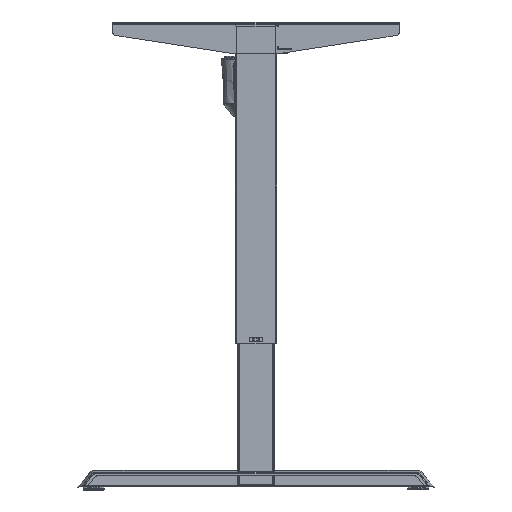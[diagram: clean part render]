
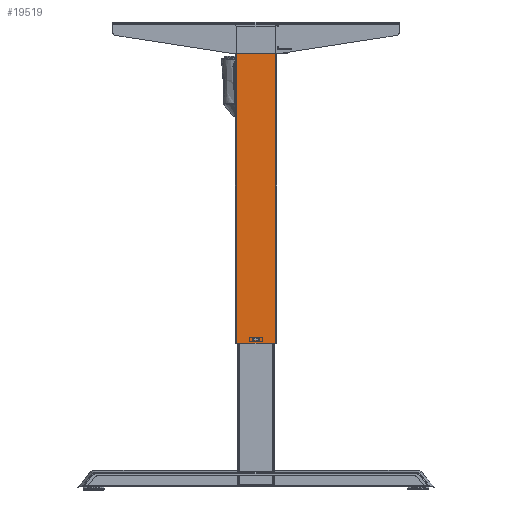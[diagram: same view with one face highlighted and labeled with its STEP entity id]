
A CAD part, left-side view. The second image highlights one B-rep face of the part: STEP entity #19519.
In plain terms, the highlighted planar face has unit normal (-1, 0, 0).
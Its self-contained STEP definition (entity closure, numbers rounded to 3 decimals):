
#596 = DIRECTION ( 'NONE',  ( 1., 0., 0. ) ) ;
#949 = DIRECTION ( 'NONE',  ( 0., -1., 0. ) ) ;
#3120 = VERTEX_POINT ( 'NONE', #36601 ) ;
#3963 = VECTOR ( 'NONE', #41346, 1000. ) ;
#4034 = EDGE_CURVE ( 'NONE', #21458, #59693, #53948, .T. ) ;
#5707 = EDGE_CURVE ( 'NONE', #59693, #58922, #15990, .T. ) ;
#7530 = DIRECTION ( 'NONE',  ( 0., -1., 0. ) ) ;
#7835 = EDGE_CURVE ( 'NONE', #3120, #16597, #9620, .T. ) ;
#9620 = LINE ( 'NONE', #49672, #21069 ) ;
#11277 = AXIS2_PLACEMENT_3D ( 'NONE', #28847, #596, #62065 ) ;
#12360 = FACE_OUTER_BOUND ( 'NONE', #19856, .T. ) ;
#13380 = VECTOR ( 'NONE', #949, 1000. ) ;
#13393 = CARTESIAN_POINT ( 'NONE',  ( -30., -37., 609. ) ) ;
#14014 = EDGE_CURVE ( 'NONE', #35728, #69951, #68147, .T. ) ;
#15302 = ORIENTED_EDGE ( 'NONE', *, *, #14014, .T. ) ;
#15386 = ORIENTED_EDGE ( 'NONE', *, *, #68105, .F. ) ;
#15682 = LINE ( 'NONE', #57654, #59634 ) ;
#15990 = LINE ( 'NONE', #40033, #13380 ) ;
#16597 = VERTEX_POINT ( 'NONE', #71259 ) ;
#18817 = VECTOR ( 'NONE', #24456, 1000. ) ;
#19519 = ADVANCED_FACE ( 'NONE', ( #33411, #12360 ), #39660, .F. ) ;
#19751 = CARTESIAN_POINT ( 'NONE',  ( -30., 6., 10. ) ) ;
#19856 = EDGE_LOOP ( 'NONE', ( #15386, #69094, #51437, #53616 ) ) ;
#20484 = CARTESIAN_POINT ( 'NONE',  ( -30., -37., 614. ) ) ;
#21069 = VECTOR ( 'NONE', #21925, 1000. ) ;
#21458 = VERTEX_POINT ( 'NONE', #60777 ) ;
#21925 = DIRECTION ( 'NONE',  ( 0., 1., 0. ) ) ;
#24456 = DIRECTION ( 'NONE',  ( 0., 0., -1. ) ) ;
#28847 = CARTESIAN_POINT ( 'NONE',  ( -30., 37., 614. ) ) ;
#30336 = CARTESIAN_POINT ( 'NONE',  ( -30., 37., 614. ) ) ;
#31407 = EDGE_CURVE ( 'NONE', #69951, #3120, #49823, .T. ) ;
#33411 = FACE_BOUND ( 'NONE', #50936, .T. ) ;
#33489 = VERTEX_POINT ( 'NONE', #13393 ) ;
#34070 = CARTESIAN_POINT ( 'NONE',  ( -30., -6., 10. ) ) ;
#34864 = VECTOR ( 'NONE', #69914, 1000. ) ;
#35728 = VERTEX_POINT ( 'NONE', #52761 ) ;
#36601 = CARTESIAN_POINT ( 'NONE',  ( -30., -6., 6. ) ) ;
#39660 = PLANE ( 'NONE',  #11277 ) ;
#39994 = VECTOR ( 'NONE', #50319, 1000. ) ;
#40033 = CARTESIAN_POINT ( 'NONE',  ( -30., 37., 0. ) ) ;
#40703 = VECTOR ( 'NONE', #59305, 1000. ) ;
#41346 = DIRECTION ( 'NONE',  ( 0., 0., 1. ) ) ;
#44747 = CARTESIAN_POINT ( 'NONE',  ( -30., 37., 0. ) ) ;
#47293 = CARTESIAN_POINT ( 'NONE',  ( -30., -6., 10. ) ) ;
#49672 = CARTESIAN_POINT ( 'NONE',  ( -30., 6., 6. ) ) ;
#49823 = LINE ( 'NONE', #47293, #34864 ) ;
#50319 = DIRECTION ( 'NONE',  ( 0., -1., 0. ) ) ;
#50936 = EDGE_LOOP ( 'NONE', ( #61458, #15302, #54946, #53562 ) ) ;
#51437 = ORIENTED_EDGE ( 'NONE', *, *, #4034, .T. ) ;
#52761 = CARTESIAN_POINT ( 'NONE',  ( -30., 6., 10. ) ) ;
#53562 = ORIENTED_EDGE ( 'NONE', *, *, #7835, .T. ) ;
#53616 = ORIENTED_EDGE ( 'NONE', *, *, #5707, .T. ) ;
#53652 = EDGE_CURVE ( 'NONE', #21458, #33489, #15682, .T. ) ;
#53948 = LINE ( 'NONE', #30336, #18817 ) ;
#54946 = ORIENTED_EDGE ( 'NONE', *, *, #31407, .T. ) ;
#57654 = CARTESIAN_POINT ( 'NONE',  ( -30., 40., 609. ) ) ;
#58922 = VERTEX_POINT ( 'NONE', #68158 ) ;
#59305 = DIRECTION ( 'NONE',  ( 0., 0., -1. ) ) ;
#59634 = VECTOR ( 'NONE', #7530, 1000. ) ;
#59693 = VERTEX_POINT ( 'NONE', #44747 ) ;
#60777 = CARTESIAN_POINT ( 'NONE',  ( -30., 37., 609. ) ) ;
#61458 = ORIENTED_EDGE ( 'NONE', *, *, #66909, .T. ) ;
#62065 = DIRECTION ( 'NONE',  ( 0., 1., 0. ) ) ;
#65567 = LINE ( 'NONE', #19751, #3963 ) ;
#66909 = EDGE_CURVE ( 'NONE', #16597, #35728, #65567, .T. ) ;
#68105 = EDGE_CURVE ( 'NONE', #33489, #58922, #72398, .T. ) ;
#68147 = LINE ( 'NONE', #72467, #39994 ) ;
#68158 = CARTESIAN_POINT ( 'NONE',  ( -30., -37., 0. ) ) ;
#69094 = ORIENTED_EDGE ( 'NONE', *, *, #53652, .F. ) ;
#69914 = DIRECTION ( 'NONE',  ( 0., 0., -1. ) ) ;
#69951 = VERTEX_POINT ( 'NONE', #34070 ) ;
#71259 = CARTESIAN_POINT ( 'NONE',  ( -30., 6., 6. ) ) ;
#72398 = LINE ( 'NONE', #20484, #40703 ) ;
#72467 = CARTESIAN_POINT ( 'NONE',  ( -30., 6., 10. ) ) ;
